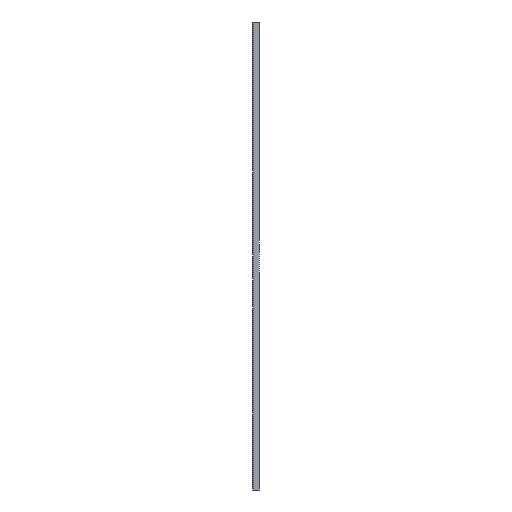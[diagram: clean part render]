
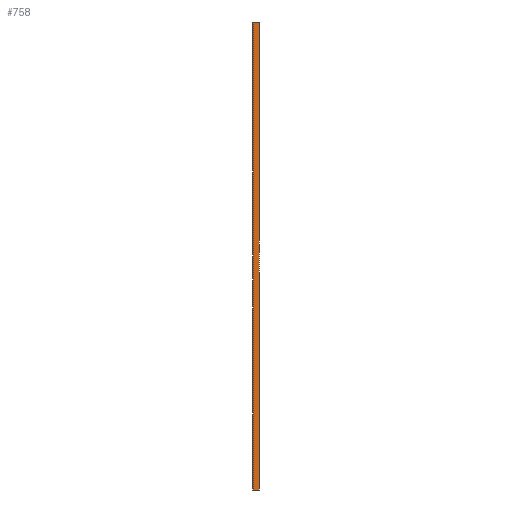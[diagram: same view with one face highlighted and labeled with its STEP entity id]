
A CAD part, left-side view. The second image highlights one B-rep face of the part: STEP entity #758.
In plain terms, the highlighted planar face has unit normal (-1, 0, 0).
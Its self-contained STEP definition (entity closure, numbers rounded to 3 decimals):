
#6 = VECTOR ( 'NONE', #669, 1000. ) ;
#18 = EDGE_CURVE ( 'NONE', #621, #945, #165, .T. ) ;
#39 = CARTESIAN_POINT ( 'NONE',  ( -601.5, -20., -1250. ) ) ;
#58 = CARTESIAN_POINT ( 'NONE',  ( -601.5, 0., -1250. ) ) ;
#125 = CARTESIAN_POINT ( 'NONE',  ( -601.5, 0., -1250. ) ) ;
#165 = LINE ( 'NONE', #58, #933 ) ;
#204 = CARTESIAN_POINT ( 'NONE',  ( -601.5, -20., -1250. ) ) ;
#217 = ORIENTED_EDGE ( 'NONE', *, *, #18, .F. ) ;
#228 = EDGE_CURVE ( 'NONE', #926, #945, #428, .T. ) ;
#245 = DIRECTION ( 'NONE',  ( 0., 1., 0. ) ) ;
#285 = ORIENTED_EDGE ( 'NONE', *, *, #907, .F. ) ;
#377 = CARTESIAN_POINT ( 'NONE',  ( -601.5, -20., -1250. ) ) ;
#419 = CARTESIAN_POINT ( 'NONE',  ( -601.5, -20., 150. ) ) ;
#428 = LINE ( 'NONE', #419, #569 ) ;
#466 = CARTESIAN_POINT ( 'NONE',  ( -601.5, 0., 150. ) ) ;
#482 = LINE ( 'NONE', #204, #948 ) ;
#498 = LINE ( 'NONE', #39, #6 ) ;
#508 = VERTEX_POINT ( 'NONE', #377 ) ;
#521 = DIRECTION ( 'NONE',  ( 0., 0., 1. ) ) ;
#569 = VECTOR ( 'NONE', #245, 1000. ) ;
#588 = AXIS2_PLACEMENT_3D ( 'NONE', #643, #732, #895 ) ;
#621 = VERTEX_POINT ( 'NONE', #125 ) ;
#639 = DIRECTION ( 'NONE',  ( 0., 1., 0. ) ) ;
#643 = CARTESIAN_POINT ( 'NONE',  ( -601.5, -20., -1250. ) ) ;
#650 = CARTESIAN_POINT ( 'NONE',  ( -601.5, -20., 150. ) ) ;
#669 = DIRECTION ( 'NONE',  ( 0., 0., 1. ) ) ;
#729 = FACE_OUTER_BOUND ( 'NONE', #1008, .T. ) ;
#732 = DIRECTION ( 'NONE',  ( -1., 0., 0. ) ) ;
#758 = ADVANCED_FACE ( 'NONE', ( #729 ), #1064, .T. ) ;
#768 = EDGE_CURVE ( 'NONE', #508, #926, #498, .T. ) ;
#834 = ORIENTED_EDGE ( 'NONE', *, *, #768, .T. ) ;
#895 = DIRECTION ( 'NONE',  ( 0., 0., 1. ) ) ;
#907 = EDGE_CURVE ( 'NONE', #508, #621, #482, .T. ) ;
#926 = VERTEX_POINT ( 'NONE', #650 ) ;
#933 = VECTOR ( 'NONE', #521, 1000. ) ;
#945 = VERTEX_POINT ( 'NONE', #466 ) ;
#948 = VECTOR ( 'NONE', #639, 1000. ) ;
#1008 = EDGE_LOOP ( 'NONE', ( #217, #285, #834, #1044 ) ) ;
#1044 = ORIENTED_EDGE ( 'NONE', *, *, #228, .T. ) ;
#1064 = PLANE ( 'NONE',  #588 ) ;
